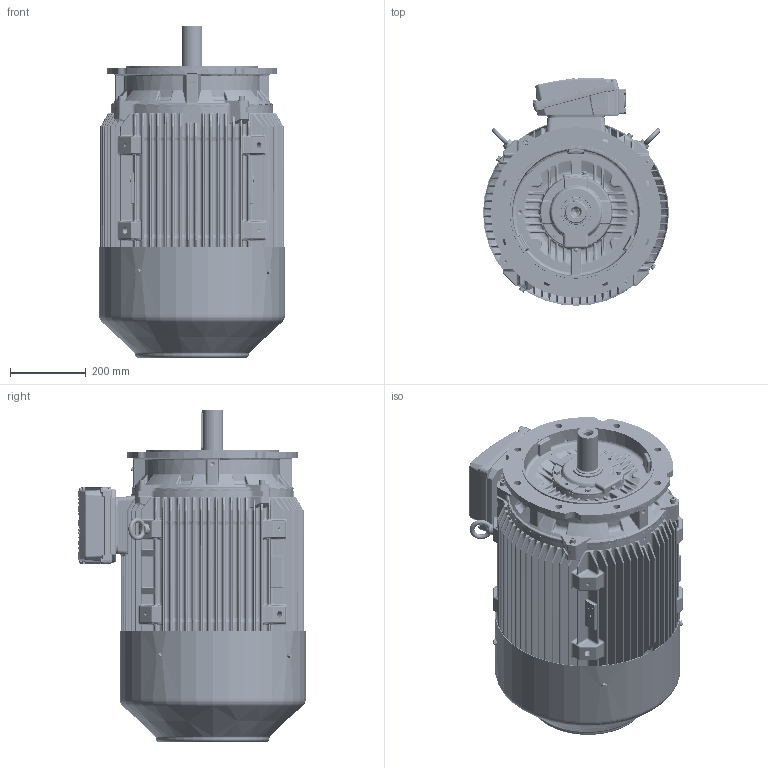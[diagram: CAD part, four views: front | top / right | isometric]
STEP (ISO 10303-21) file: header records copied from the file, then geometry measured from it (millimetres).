
FILE_DESCRIPTION (( 'STEP AP203' ), '1' );
FILE_NAME ('0222500476_RevA.STEP', '2023-04-27T04:03:59', ( '' ), ( '' ), 'SwSTEP 2.0', 'SolidWorks 2021', '' );
FILE_SCHEMA (( 'CONFIG_CONTROL_DESIGN' ));
Length unit declared in the file: inch
Products named in the file (1): 0222500476_RevA
Bounding box: 491 x 599.9 x 876.5 mm (x, y, z)
Volume: 25414629.7 mm3; surface area: 5557429.9 mm2
Topology: 61 solids, 61 shells, 11824 faces, 29620 edges, 17763 vertices
Faces by surface type: cylinder 3606, bspline 3301, plane 2247, torus 1313, cone 1141, sphere 216
Entity records: 471326 total; most frequent: CARTESIAN_POINT 213710, ORIENTED_EDGE 58572, DIRECTION 49374, EDGE_CURVE 29286, AXIS2_PLACEMENT_3D 20455, VERTEX_POINT 17737, EDGE_LOOP 12791, CIRCLE 11931
